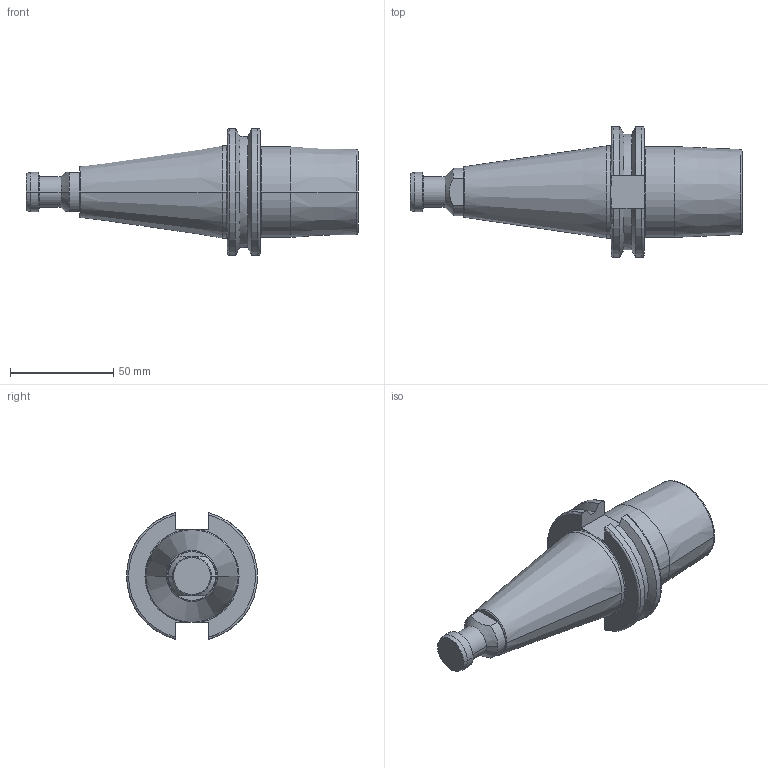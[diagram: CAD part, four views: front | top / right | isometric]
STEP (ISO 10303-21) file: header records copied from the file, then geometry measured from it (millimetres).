
FILE_DESCRIPTION (( 'STEP AP214' ), '1' );
FILE_NAME ('TURNING_2.STEP', '2015-05-08T17:49:03', ( '' ), ( '' ), 'SwSTEP 2.0', 'SolidWorks 2015', '' );
FILE_SCHEMA (( 'AUTOMOTIVE_DESIGN' ));
Length unit declared in the file: millimetre
Products named in the file (1): TURNING_2
Bounding box: 161 x 63.55 x 61.5 mm (x, y, z)
Volume: 162765.9 mm3; surface area: 27798.3 mm2
Topology: 1 solids, 1 shells, 85 faces, 203 edges, 122 vertices
Faces by surface type: cylinder 28, cone 26, plane 17, torus 14
Entity records: 2640 total; most frequent: CARTESIAN_POINT 591, DIRECTION 450, ORIENTED_EDGE 402, EDGE_CURVE 201, AXIS2_PLACEMENT_3D 185, VERTEX_POINT 122, CIRCLE 99, EDGE_LOOP 89
